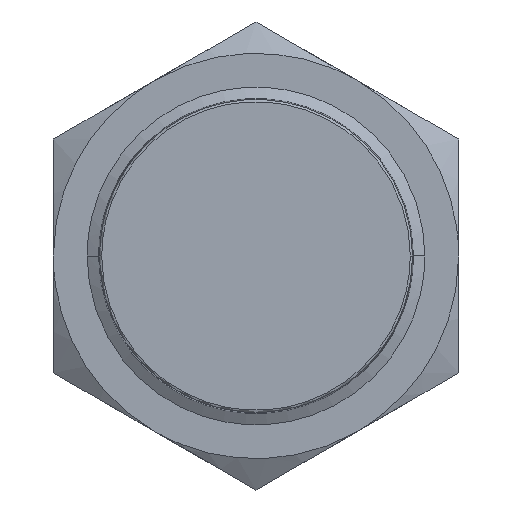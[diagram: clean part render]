
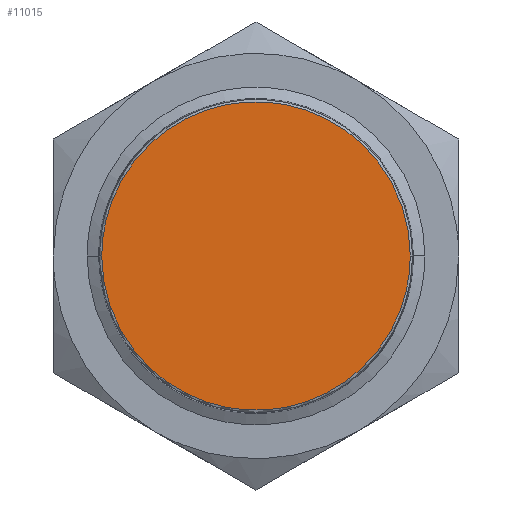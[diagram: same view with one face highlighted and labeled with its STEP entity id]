
A CAD part, front view. The second image highlights one B-rep face of the part: STEP entity #11015.
In plain terms, the highlighted free-form (B-spline) face has degree [1, 1] with [2, 2] control points.
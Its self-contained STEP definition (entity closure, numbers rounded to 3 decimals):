
#10974=CARTESIAN_POINT('F60',(15.072,-60.0,
   15.072));
#10975=CARTESIAN_POINT('F60',(-15.072,-60.0,
   15.072));
#10976=CARTESIAN_POINT('F60',(15.072,-60.0,
   -15.072));
#10977=CARTESIAN_POINT('F60',(-15.072,-60.0,
   -15.072));
#10978=QUASI_UNIFORM_SURFACE('F60',1,1,((#10974,#10976),(#10975,
   #10977)),.PLANE_SURF.,.F.,.F.,.U.);
#10979=CARTESIAN_POINT('V98',(13.702,-60.0,
   0.));
#10980=VERTEX_POINT('V98',#10979);
#10981=CARTESIAN_POINT('V97',(-13.702,-60.0,
   0.));
#10982=VERTEX_POINT('V97',#10981);
#10983=CARTESIAN_POINT('E156',(13.702,-60.0,0.0));
#10984=CARTESIAN_POINT('E156',(13.702,-60.0,
   13.702));
#10985=CARTESIAN_POINT('E156',(0.0,-60.0,13.702));
#10986=CARTESIAN_POINT('E156',(-13.702,-60.0,
   13.702));
#10987=CARTESIAN_POINT('E156',(-13.702,-60.0,0.0));
#10995=(BOUNDED_CURVE()B_SPLINE_CURVE(2,(#10983,#10984,#10985,
   #10986,#10987),.CIRCULAR_ARC.,.F.,.U.)B_SPLINE_CURVE_WITH_KNOTS(
   (3,2,3),(0.0,0.5,1.0),.UNSPECIFIED.)CURVE()
   GEOMETRIC_REPRESENTATION_ITEM()RATIONAL_B_SPLINE_CURVE((1.0,
   0.707,1.0,0.707,1.0))REPRESENTATION_ITEM(
   'E156'));
#10996=EDGE_CURVE('E156',#10980,#10982,#10995,.T.);
#10997=ORIENTED_EDGE('E156',*,*,#10996,.F.);
#10998=CARTESIAN_POINT('E155',(-13.702,-60.0,0.0));
#10999=CARTESIAN_POINT('E155',(-13.702,-60.0,
   -13.702));
#11000=CARTESIAN_POINT('E155',(0.0,-60.0,-13.702));
#11001=CARTESIAN_POINT('E155',(13.702,-60.0,
   -13.702));
#11002=CARTESIAN_POINT('E155',(13.702,-60.0,0.0));
#11010=(BOUNDED_CURVE()B_SPLINE_CURVE(2,(#10998,#10999,#11000,
   #11001,#11002),.CIRCULAR_ARC.,.F.,.U.)B_SPLINE_CURVE_WITH_KNOTS(
   (3,2,3),(0.0,0.5,1.0),.UNSPECIFIED.)CURVE()
   GEOMETRIC_REPRESENTATION_ITEM()RATIONAL_B_SPLINE_CURVE((1.0,
   0.707,1.0,0.707,1.0))REPRESENTATION_ITEM(
   'E155'));
#11011=EDGE_CURVE('E155',#10982,#10980,#11010,.T.);
#11012=ORIENTED_EDGE('E155',*,*,#11011,.F.);
#11013=EDGE_LOOP('F60',(#10997,#11012));
#11014=FACE_OUTER_BOUND('F60',#11013,.F.);
#11015=ADVANCED_FACE('F60',(#11014),#10978,.T.);
